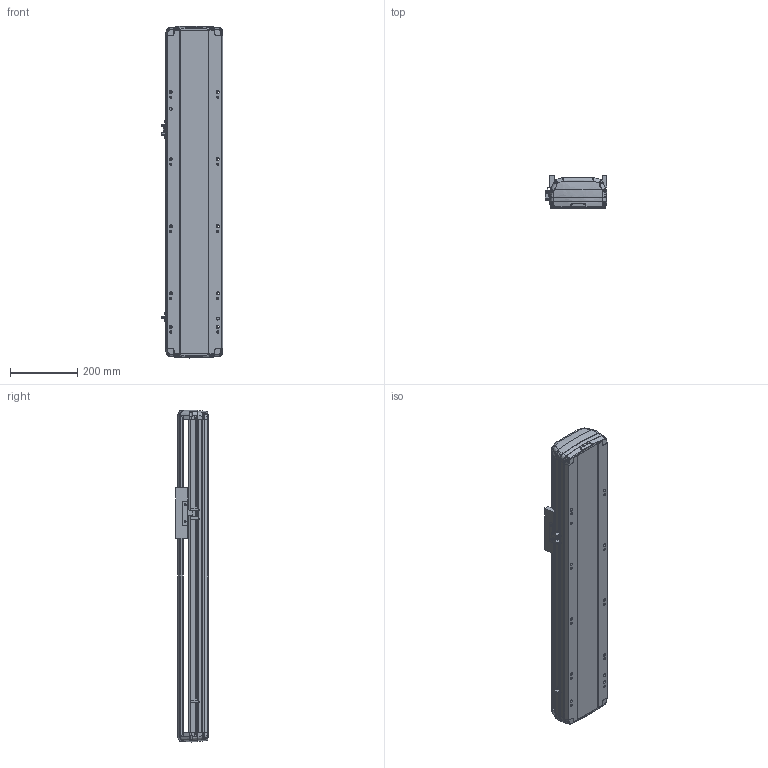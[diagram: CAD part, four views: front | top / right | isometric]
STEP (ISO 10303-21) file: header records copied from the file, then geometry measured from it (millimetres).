
FILE_DESCRIPTION (( 'STEP AP214' ), '1' );
FILE_NAME ('RTH17-XX-550-B-M40B-C4.STEP', '2025-10-24T09:15:23', ( '' ), ( '' ), 'SwSTEP 2.0', 'SolidWorks 2018', '' );
FILE_SCHEMA (( 'AUTOMOTIVE_DESIGN' ));
Length unit declared in the file: millimetre
Products named in the file (7): RTH17-XX-550-B-M40B-C4; N_RTH17-E-004丝杆螺母连接座^RTH17-XX-XX-B-M40B-C4（方程式）; N_RTH17-GY-001P^RTH17-XX-XX-B-M40B-C4（方程式）; N_RTH17-M-007B上盖^RTH17-XX-XX-B-M40B-C4（方程式）; N_RTH-L-012 感应片(外置)^RTH17-XX-XX-B-M40B-C4（方程式）; N_RTH17-M-011B底座^RTH17-XX-XX-B-M40B-C4（方程式）; N_OMRON EE-SX672 換覜ん^RTH17-XX-XX-B-M40B-C4ㄗ源最宒ㄘ
Assembly tree (9 placements, depth 2):
  RTH17-XX-550-B-M40B-C4
    N_RTH17-M-011B底座^RTH17-XX-XX-B-M40B-C4（方程式）
    N_RTH17-M-007B上盖^RTH17-XX-XX-B-M40B-C4（方程式）
    N_OMRON EE-SX672 換覜ん^RTH17-XX-XX-B-M40B-C4ㄗ源最宒ㄘ  x3
    N_RTH-L-012 感应片(外置)^RTH17-XX-XX-B-M40B-C4（方程式）
    N_RTH17-E-004丝杆螺母连接座^RTH17-XX-XX-B-M40B-C4（方程式）
    N_RTH17-GY-001P^RTH17-XX-XX-B-M40B-C4（方程式）  x2
Bounding box: 183.5 x 97 x 989.88 mm (x, y, z)
Volume: 7350699.9 mm3; surface area: 1041018.6 mm2
Topology: 7 solids, 11 shells, 1720 faces, 4826 edges, 3134 vertices
Faces by surface type: plane 809, cylinder 445, bspline 420, cone 28, torus 18
Entity records: 40278 total; most frequent: CARTESIAN_POINT 16789, ORIENTED_EDGE 5156, DIRECTION 4066, EDGE_CURVE 2582, VERTEX_POINT 1688, VECTOR 1418, LINE 1418, AXIS2_PLACEMENT_3D 1324
